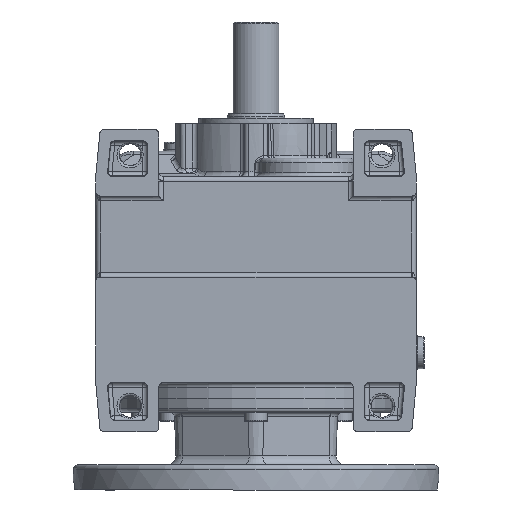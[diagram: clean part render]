
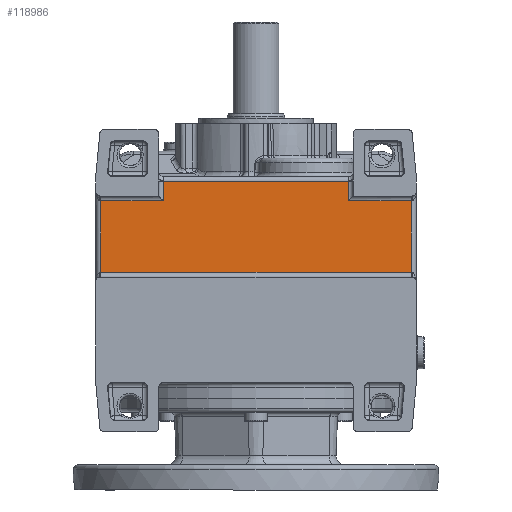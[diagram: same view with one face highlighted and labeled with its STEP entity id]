
A CAD part, front view. The second image highlights one B-rep face of the part: STEP entity #118986.
In plain terms, the highlighted planar face has unit normal (0, -1, 0).
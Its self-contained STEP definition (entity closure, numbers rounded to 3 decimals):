
#99477 = CARTESIAN_POINT ( 'NONE',  ( 67.929, -74., -64.93 ) ) ;
#99478 = DIRECTION ( 'NONE',  ( 0., 0., 1. ) ) ;
#99479 = VECTOR ( 'NONE', #99478, 1000. ) ;
#99480 = CARTESIAN_POINT ( 'NONE',  ( 67.929, -74., -113. ) ) ;
#99481 = LINE ( 'NONE', #99480, #99479 ) ;
#99487 = CARTESIAN_POINT ( 'NONE',  ( 67.929, -74., -33.57 ) ) ;
#106159 = DIRECTION ( 'NONE',  ( 1., 0., 0. ) ) ;
#106160 = VECTOR ( 'NONE', #106159, 1000. ) ;
#106162 = CARTESIAN_POINT ( 'NONE',  ( 67.929, -74., -64.93 ) ) ;
#106164 = LINE ( 'NONE', #106162, #106160 ) ;
#106183 = CARTESIAN_POINT ( 'NONE',  ( -67.929, -74., -64.93 ) ) ;
#106185 = DIRECTION ( 'NONE',  ( 0., 0., -1. ) ) ;
#106187 = VECTOR ( 'NONE', #106185, 1000. ) ;
#106189 = CARTESIAN_POINT ( 'NONE',  ( -67.929, -74., -113. ) ) ;
#106190 = LINE ( 'NONE', #106189, #106187 ) ;
#106220 = DIRECTION ( 'NONE',  ( -1., 0., 0. ) ) ;
#106221 = VECTOR ( 'NONE', #106220, 1000. ) ;
#106222 = CARTESIAN_POINT ( 'NONE',  ( -67.999, -74., -25. ) ) ;
#106224 = LINE ( 'NONE', #106222, #106221 ) ;
#106243 = CARTESIAN_POINT ( 'NONE',  ( 40.43, -74., -25. ) ) ;
#106246 = DIRECTION ( 'NONE',  ( 0., 0., 1. ) ) ;
#106247 = VECTOR ( 'NONE', #106246, 1000. ) ;
#106249 = CARTESIAN_POINT ( 'NONE',  ( 40.43, -74., -25. ) ) ;
#106251 = LINE ( 'NONE', #106249, #106247 ) ;
#106273 = CARTESIAN_POINT ( 'NONE',  ( 40.43, -74., -33.57 ) ) ;
#106275 = DIRECTION ( 'NONE',  ( -1., 0., 0. ) ) ;
#106277 = VECTOR ( 'NONE', #106275, 1000. ) ;
#106279 = CARTESIAN_POINT ( 'NONE',  ( 40.43, -74., -33.57 ) ) ;
#106280 = LINE ( 'NONE', #106279, #106277 ) ;
#106702 = CARTESIAN_POINT ( 'NONE',  ( -67.929, -74., -33.57 ) ) ;
#106704 = DIRECTION ( 'NONE',  ( -1., 0., 0. ) ) ;
#106705 = VECTOR ( 'NONE', #106704, 1000. ) ;
#106707 = CARTESIAN_POINT ( 'NONE',  ( -67.929, -74., -33.57 ) ) ;
#106709 = LINE ( 'NONE', #106707, #106705 ) ;
#107176 = DIRECTION ( 'NONE',  ( 0., 0., -1. ) ) ;
#107178 = VECTOR ( 'NONE', #107176, 1000. ) ;
#107180 = CARTESIAN_POINT ( 'NONE',  ( -40.43, -74., -31.5 ) ) ;
#107181 = LINE ( 'NONE', #107180, #107178 ) ;
#107200 = DIRECTION ( 'NONE',  ( 1., 0., 0. ) ) ;
#107202 = DIRECTION ( 'NONE',  ( 0., -1., 0. ) ) ;
#107204 = CARTESIAN_POINT ( 'NONE',  ( -70., -74., -113. ) ) ;
#107206 = AXIS2_PLACEMENT_3D ( 'NONE', #107204, #107202, #107200 ) ;
#107211 = PLANE ( 'NONE',  #107206 ) ;
#107213 = FACE_OUTER_BOUND ( 'NONE', #118987, .T. ) ;
#107325 = CARTESIAN_POINT ( 'NONE',  ( -40.43, -74., -33.57 ) ) ;
#107328 = CARTESIAN_POINT ( 'NONE',  ( -40.43, -74., -25. ) ) ;
#117360 = VERTEX_POINT ( 'NONE', #99487 ) ;
#117363 = EDGE_CURVE ( 'NONE', #117365, #117360, #99481, .T. ) ;
#117365 = VERTEX_POINT ( 'NONE', #99477 ) ;
#118838 = EDGE_CURVE ( 'NONE', #118919, #118839, #106190, .T. ) ;
#118839 = VERTEX_POINT ( 'NONE', #106183 ) ;
#118842 = ORIENTED_EDGE ( 'NONE', *, *, #118844, .T. ) ;
#118844 = EDGE_CURVE ( 'NONE', #118839, #117365, #106164, .T. ) ;
#118846 = ORIENTED_EDGE ( 'NONE', *, *, #117363, .T. ) ;
#118849 = ORIENTED_EDGE ( 'NONE', *, *, #118851, .T. ) ;
#118851 = EDGE_CURVE ( 'NONE', #117360, #118852, #106280, .T. ) ;
#118852 = VERTEX_POINT ( 'NONE', #106273 ) ;
#118855 = ORIENTED_EDGE ( 'NONE', *, *, #118858, .T. ) ;
#118858 = EDGE_CURVE ( 'NONE', #118852, #118859, #106251, .T. ) ;
#118859 = VERTEX_POINT ( 'NONE', #106243 ) ;
#118861 = ORIENTED_EDGE ( 'NONE', *, *, #118864, .T. ) ;
#118864 = EDGE_CURVE ( 'NONE', #118859, #118993, #106224, .T. ) ;
#118918 = EDGE_CURVE ( 'NONE', #118995, #118919, #106709, .T. ) ;
#118919 = VERTEX_POINT ( 'NONE', #106702 ) ;
#118921 = ORIENTED_EDGE ( 'NONE', *, *, #118838, .T. ) ;
#118986 = ADVANCED_FACE ( 'NONE', ( #107213 ), #107211, .T. ) ;
#118987 = EDGE_LOOP ( 'NONE', ( #118990, #118998, #118921, #118842, #118846, #118849, #118855, #118861 ) ) ;
#118990 = ORIENTED_EDGE ( 'NONE', *, *, #118992, .T. ) ;
#118992 = EDGE_CURVE ( 'NONE', #118993, #118995, #107181, .T. ) ;
#118993 = VERTEX_POINT ( 'NONE', #107328 ) ;
#118995 = VERTEX_POINT ( 'NONE', #107325 ) ;
#118998 = ORIENTED_EDGE ( 'NONE', *, *, #118918, .T. ) ;
